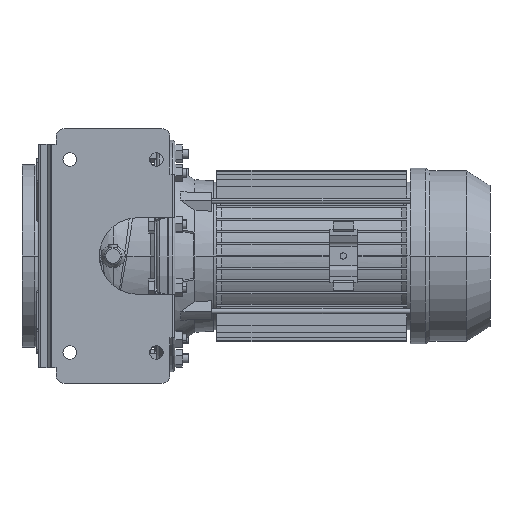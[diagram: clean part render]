
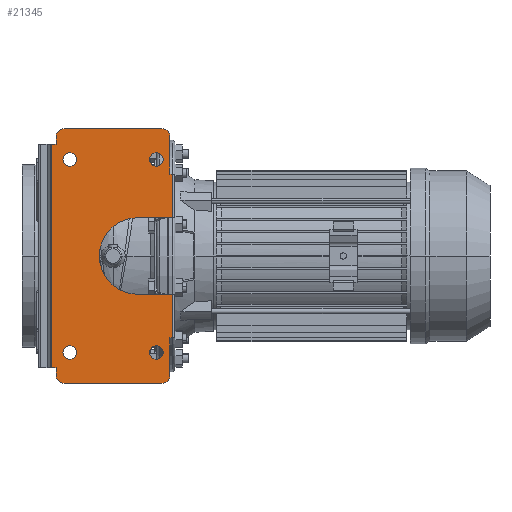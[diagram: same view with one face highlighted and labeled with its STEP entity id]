
A CAD part, front view. The second image highlights one B-rep face of the part: STEP entity #21345.
In plain terms, the highlighted planar face has unit normal (0, -1, 0).
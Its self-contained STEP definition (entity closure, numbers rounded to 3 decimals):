
#18320=CARTESIAN_POINT('',(47.5,-160.,-106.));
#18321=DIRECTION('',(0.,-1.,0.));
#18322=DIRECTION('',(1.,0.,0.));
#18323=AXIS2_PLACEMENT_3D('',#18320,#18321,#18322);
#18325=CARTESIAN_POINT('',(47.5,-160.,-106.));
#18326=DIRECTION('',(0.,-1.,0.));
#18327=DIRECTION('',(-1.,0.,0.));
#18328=AXIS2_PLACEMENT_3D('',#18325,#18326,#18327);
#18330=CARTESIAN_POINT('',(-47.5,-160.,-106.));
#18331=DIRECTION('',(0.,-1.,0.));
#18332=DIRECTION('',(1.,0.,0.));
#18333=AXIS2_PLACEMENT_3D('',#18330,#18331,#18332);
#18335=CARTESIAN_POINT('',(-47.5,-160.,-106.));
#18336=DIRECTION('',(0.,-1.,0.));
#18337=DIRECTION('',(-1.,0.,0.));
#18338=AXIS2_PLACEMENT_3D('',#18335,#18336,#18337);
#18340=CARTESIAN_POINT('',(47.5,-160.,106.));
#18341=DIRECTION('',(0.,-1.,0.));
#18342=DIRECTION('',(1.,0.,0.));
#18343=AXIS2_PLACEMENT_3D('',#18340,#18341,#18342);
#18345=CARTESIAN_POINT('',(47.5,-160.,106.));
#18346=DIRECTION('',(0.,-1.,0.));
#18347=DIRECTION('',(-1.,0.,0.));
#18348=AXIS2_PLACEMENT_3D('',#18345,#18346,#18347);
#18350=CARTESIAN_POINT('',(-47.5,-160.,106.));
#18351=DIRECTION('',(0.,-1.,0.));
#18352=DIRECTION('',(1.,0.,0.));
#18353=AXIS2_PLACEMENT_3D('',#18350,#18351,#18352);
#18355=CARTESIAN_POINT('',(-47.5,-160.,106.));
#18356=DIRECTION('',(0.,-1.,0.));
#18357=DIRECTION('',(-1.,0.,0.));
#18358=AXIS2_PLACEMENT_3D('',#18355,#18356,#18357);
#18360=DIRECTION('',(0.,0.,1.));
#18361=VECTOR('',#18360,48.);
#18362=CARTESIAN_POINT('',(65.5,-160.,-90.));
#18363=LINE('',#18362,#18361);
#18364=DIRECTION('',(0.,0.,-1.));
#18365=VECTOR('',#18364,41.);
#18366=CARTESIAN_POINT('',(62.5,-160.,-90.));
#18367=LINE('',#18366,#18365);
#18368=CARTESIAN_POINT('',(53.5,-160.,-131.));
#18369=DIRECTION('',(0.,-1.,0.));
#18370=DIRECTION('',(0.,0.,-1.));
#18371=AXIS2_PLACEMENT_3D('',#18368,#18369,#18370);
#18373=DIRECTION('',(-1.,0.,0.));
#18374=VECTOR('',#18373,107.);
#18375=CARTESIAN_POINT('',(53.5,-160.,-140.));
#18376=LINE('',#18375,#18374);
#18377=CARTESIAN_POINT('',(-53.5,-160.,-131.));
#18378=DIRECTION('',(0.,-1.,0.));
#18379=DIRECTION('',(-1.,0.,0.));
#18380=AXIS2_PLACEMENT_3D('',#18377,#18378,#18379);
#18382=DIRECTION('',(0.,0.,1.));
#18383=VECTOR('',#18382,8.5);
#18384=CARTESIAN_POINT('',(-62.5,-160.,-131.));
#18385=LINE('',#18384,#18383);
#18386=DIRECTION('',(-1.,0.,0.));
#18387=VECTOR('',#18386,5.172);
#18388=CARTESIAN_POINT('',(-62.5,-160.,-122.5));
#18389=LINE('',#18388,#18387);
#18390=DIRECTION('',(0.,0.,-1.));
#18391=VECTOR('',#18390,245.);
#18392=CARTESIAN_POINT('',(-67.672,-160.,122.5));
#18393=LINE('',#18392,#18391);
#18394=DIRECTION('',(1.,0.,0.));
#18395=VECTOR('',#18394,5.172);
#18396=CARTESIAN_POINT('',(-67.672,-160.,122.5));
#18397=LINE('',#18396,#18395);
#18398=DIRECTION('',(0.,0.,1.));
#18399=VECTOR('',#18398,8.5);
#18400=CARTESIAN_POINT('',(-62.5,-160.,122.5));
#18401=LINE('',#18400,#18399);
#18402=CARTESIAN_POINT('',(-53.5,-160.,131.));
#18403=DIRECTION('',(0.,-1.,0.));
#18404=DIRECTION('',(0.,0.,1.));
#18405=AXIS2_PLACEMENT_3D('',#18402,#18403,#18404);
#18407=DIRECTION('',(1.,0.,0.));
#18408=VECTOR('',#18407,107.);
#18409=CARTESIAN_POINT('',(-53.5,-160.,140.));
#18410=LINE('',#18409,#18408);
#18411=CARTESIAN_POINT('',(53.5,-160.,131.));
#18412=DIRECTION('',(0.,-1.,0.));
#18413=DIRECTION('',(1.,0.,0.));
#18414=AXIS2_PLACEMENT_3D('',#18411,#18412,#18413);
#18416=DIRECTION('',(0.,0.,-1.));
#18417=VECTOR('',#18416,41.);
#18418=CARTESIAN_POINT('',(62.5,-160.,131.));
#18419=LINE('',#18418,#18417);
#18420=DIRECTION('',(0.,0.,1.));
#18421=VECTOR('',#18420,48.);
#18422=CARTESIAN_POINT('',(65.5,-160.,42.));
#18423=LINE('',#18422,#18421);
#18424=CARTESIAN_POINT('',(27.,-160.,0.));
#18425=DIRECTION('',(0.,-1.,0.));
#18426=DIRECTION('',(0.,0.,1.));
#18427=AXIS2_PLACEMENT_3D('',#18424,#18425,#18426);
#18471=DIRECTION('',(1.,0.,0.));
#18472=VECTOR('',#18471,38.5);
#18473=CARTESIAN_POINT('',(27.,-160.,42.));
#18474=LINE('',#18473,#18472);
#18522=DIRECTION('',(-1.,0.,0.));
#18523=VECTOR('',#18522,38.5);
#18524=CARTESIAN_POINT('',(65.5,-160.,-42.));
#18525=LINE('',#18524,#18523);
#19401=DIRECTION('',(1.,0.,0.));
#19402=VECTOR('',#19401,3.);
#19403=CARTESIAN_POINT('',(62.5,-160.,-90.));
#19404=LINE('',#19403,#19402);
#19430=DIRECTION('',(-1.,0.,0.));
#19431=VECTOR('',#19430,3.);
#19432=CARTESIAN_POINT('',(65.5,-160.,90.));
#19433=LINE('',#19432,#19431);
#20176=CARTESIAN_POINT('',(-40.,-160.,106.));
#20177=CARTESIAN_POINT('',(-55.,-160.,106.));
#20178=VERTEX_POINT('',#20176);
#20179=VERTEX_POINT('',#20177);
#20180=CARTESIAN_POINT('',(55.,-160.,106.));
#20181=CARTESIAN_POINT('',(40.,-160.,106.));
#20182=VERTEX_POINT('',#20180);
#20183=VERTEX_POINT('',#20181);
#20184=CARTESIAN_POINT('',(-40.,-160.,-106.));
#20185=CARTESIAN_POINT('',(-55.,-160.,-106.));
#20186=VERTEX_POINT('',#20184);
#20187=VERTEX_POINT('',#20185);
#20188=CARTESIAN_POINT('',(55.,-160.,-106.));
#20189=CARTESIAN_POINT('',(40.,-160.,-106.));
#20190=VERTEX_POINT('',#20188);
#20191=VERTEX_POINT('',#20189);
#20192=CARTESIAN_POINT('',(27.,-160.,42.));
#20193=CARTESIAN_POINT('',(27.,-160.,-42.));
#20194=VERTEX_POINT('',#20192);
#20195=VERTEX_POINT('',#20193);
#20212=CARTESIAN_POINT('',(62.5,-160.,-90.));
#20214=VERTEX_POINT('',#20212);
#20216=CARTESIAN_POINT('',(-62.5,-160.,-122.5));
#20218=VERTEX_POINT('',#20216);
#20220=CARTESIAN_POINT('',(-62.5,-160.,122.5));
#20222=VERTEX_POINT('',#20220);
#20224=CARTESIAN_POINT('',(62.5,-160.,90.));
#20226=VERTEX_POINT('',#20224);
#20233=CARTESIAN_POINT('',(-62.5,-160.,131.));
#20235=VERTEX_POINT('',#20233);
#20238=CARTESIAN_POINT('',(-53.5,-160.,140.));
#20239=VERTEX_POINT('',#20238);
#20241=CARTESIAN_POINT('',(53.5,-160.,140.));
#20243=VERTEX_POINT('',#20241);
#20246=CARTESIAN_POINT('',(62.5,-160.,131.));
#20247=VERTEX_POINT('',#20246);
#20249=CARTESIAN_POINT('',(62.5,-160.,-131.));
#20251=VERTEX_POINT('',#20249);
#20254=CARTESIAN_POINT('',(53.5,-160.,-140.));
#20255=VERTEX_POINT('',#20254);
#20257=CARTESIAN_POINT('',(-53.5,-160.,-140.));
#20259=VERTEX_POINT('',#20257);
#20262=CARTESIAN_POINT('',(-62.5,-160.,-131.));
#20263=VERTEX_POINT('',#20262);
#20372=CARTESIAN_POINT('',(65.5,-160.,42.));
#20374=VERTEX_POINT('',#20372);
#20376=CARTESIAN_POINT('',(65.5,-160.,-42.));
#20378=VERTEX_POINT('',#20376);
#20380=CARTESIAN_POINT('',(65.5,-160.,-90.));
#20381=VERTEX_POINT('',#20380);
#20382=CARTESIAN_POINT('',(65.5,-160.,90.));
#20383=VERTEX_POINT('',#20382);
#20396=CARTESIAN_POINT('',(-67.672,-160.,-122.5));
#20398=VERTEX_POINT('',#20396);
#20402=CARTESIAN_POINT('',(-67.672,-160.,122.5));
#20403=VERTEX_POINT('',#20402);
#21277=CARTESIAN_POINT('',(67.5,-160.,42.));
#21278=DIRECTION('',(0.,1.,0.));
#21279=DIRECTION('',(0.,0.,1.));
#21280=AXIS2_PLACEMENT_3D('',#21277,#21278,#21279);
#21281=PLANE('',#21280);
#21283=ORIENTED_EDGE('',*,*,#21282,.F.);
#21285=ORIENTED_EDGE('',*,*,#21284,.F.);
#21287=ORIENTED_EDGE('',*,*,#21286,.T.);
#21289=ORIENTED_EDGE('',*,*,#21288,.F.);
#21291=ORIENTED_EDGE('',*,*,#21290,.T.);
#21293=ORIENTED_EDGE('',*,*,#21292,.F.);
#21295=ORIENTED_EDGE('',*,*,#21294,.T.);
#21296=ORIENTED_EDGE('',*,*,#20923,.T.);
#21298=ORIENTED_EDGE('',*,*,#21297,.F.);
#21299=ORIENTED_EDGE('',*,*,#20972,.T.);
#21301=ORIENTED_EDGE('',*,*,#21300,.T.);
#21303=ORIENTED_EDGE('',*,*,#21302,.F.);
#21305=ORIENTED_EDGE('',*,*,#21304,.T.);
#21307=ORIENTED_EDGE('',*,*,#21306,.F.);
#21309=ORIENTED_EDGE('',*,*,#21308,.T.);
#21311=ORIENTED_EDGE('',*,*,#21310,.F.);
#21313=ORIENTED_EDGE('',*,*,#21312,.F.);
#21315=ORIENTED_EDGE('',*,*,#21314,.F.);
#21317=ORIENTED_EDGE('',*,*,#21316,.T.);
#21319=ORIENTED_EDGE('',*,*,#21318,.F.);
#21320=EDGE_LOOP('',(#21283,#21285,#21287,#21289,#21291,#21293,#21295,#21296,
#21298,#21299,#21301,#21303,#21305,#21307,#21309,#21311,#21313,#21315,#21317,
#21319));
#21321=FACE_OUTER_BOUND('',#21320,.F.);
#21323=ORIENTED_EDGE('',*,*,#21322,.T.);
#21325=ORIENTED_EDGE('',*,*,#21324,.T.);
#21326=EDGE_LOOP('',(#21323,#21325));
#21327=FACE_BOUND('',#21326,.F.);
#21329=ORIENTED_EDGE('',*,*,#21328,.T.);
#21331=ORIENTED_EDGE('',*,*,#21330,.T.);
#21332=EDGE_LOOP('',(#21329,#21331));
#21333=FACE_BOUND('',#21332,.F.);
#21334=ORIENTED_EDGE('',*,*,#21267,.T.);
#21336=ORIENTED_EDGE('',*,*,#21335,.T.);
#21337=EDGE_LOOP('',(#21334,#21336));
#21338=FACE_BOUND('',#21337,.F.);
#21340=ORIENTED_EDGE('',*,*,#21339,.T.);
#21342=ORIENTED_EDGE('',*,*,#21341,.T.);
#21343=EDGE_LOOP('',(#21340,#21342));
#21344=FACE_BOUND('',#21343,.F.);
#18324=CIRCLE('',#18323,7.5);
#18329=CIRCLE('',#18328,7.5);
#18334=CIRCLE('',#18333,7.5);
#18339=CIRCLE('',#18338,7.5);
#18344=CIRCLE('',#18343,7.5);
#18349=CIRCLE('',#18348,7.5);
#18354=CIRCLE('',#18353,7.5);
#18359=CIRCLE('',#18358,7.5);
#18372=CIRCLE('',#18371,9.);
#18381=CIRCLE('',#18380,9.);
#18406=CIRCLE('',#18405,9.);
#18415=CIRCLE('',#18414,9.);
#18428=CIRCLE('',#18427,42.);
#20923=EDGE_CURVE('',#20218,#20398,#18389,.T.);
#20972=EDGE_CURVE('',#20403,#20222,#18397,.T.);
#21267=EDGE_CURVE('',#20178,#20179,#18354,.T.);
#21282=EDGE_CURVE('',#20381,#20378,#18363,.T.);
#21284=EDGE_CURVE('',#20214,#20381,#19404,.T.);
#21286=EDGE_CURVE('',#20214,#20251,#18367,.T.);
#21288=EDGE_CURVE('',#20255,#20251,#18372,.T.);
#21290=EDGE_CURVE('',#20255,#20259,#18376,.T.);
#21292=EDGE_CURVE('',#20263,#20259,#18381,.T.);
#21294=EDGE_CURVE('',#20263,#20218,#18385,.T.);
#21297=EDGE_CURVE('',#20403,#20398,#18393,.T.);
#21300=EDGE_CURVE('',#20222,#20235,#18401,.T.);
#21302=EDGE_CURVE('',#20239,#20235,#18406,.T.);
#21304=EDGE_CURVE('',#20239,#20243,#18410,.T.);
#21306=EDGE_CURVE('',#20247,#20243,#18415,.T.);
#21308=EDGE_CURVE('',#20247,#20226,#18419,.T.);
#21310=EDGE_CURVE('',#20383,#20226,#19433,.T.);
#21312=EDGE_CURVE('',#20374,#20383,#18423,.T.);
#21314=EDGE_CURVE('',#20194,#20374,#18474,.T.);
#21316=EDGE_CURVE('',#20194,#20195,#18428,.T.);
#21318=EDGE_CURVE('',#20378,#20195,#18525,.T.);
#21322=EDGE_CURVE('',#20186,#20187,#18334,.T.);
#21324=EDGE_CURVE('',#20187,#20186,#18339,.T.);
#21328=EDGE_CURVE('',#20182,#20183,#18344,.T.);
#21330=EDGE_CURVE('',#20183,#20182,#18349,.T.);
#21335=EDGE_CURVE('',#20179,#20178,#18359,.T.);
#21339=EDGE_CURVE('',#20190,#20191,#18324,.T.);
#21341=EDGE_CURVE('',#20191,#20190,#18329,.T.);
#21345=ADVANCED_FACE('',(#21321,#21327,#21333,#21338,#21344),#21281,.F.);
